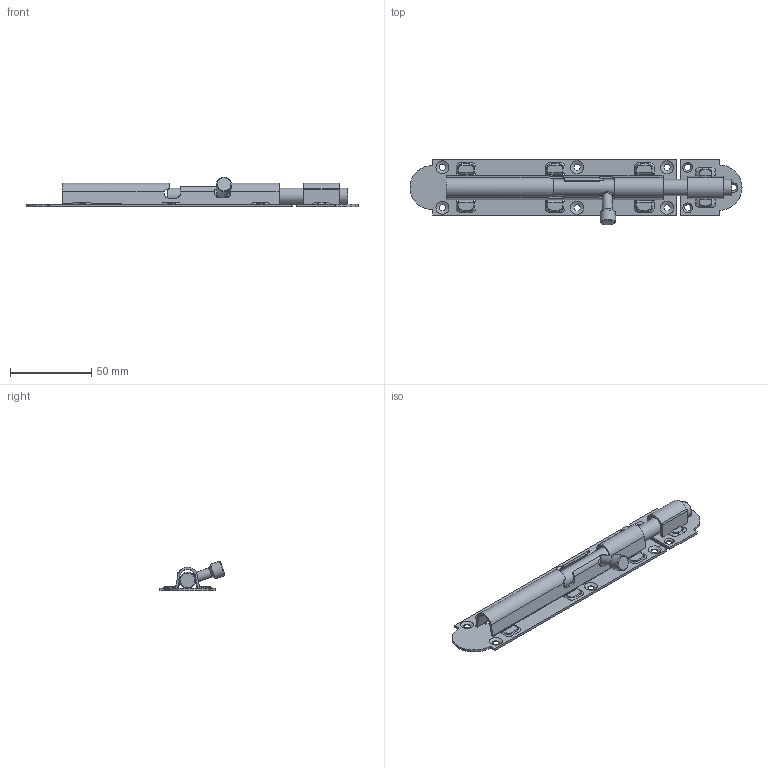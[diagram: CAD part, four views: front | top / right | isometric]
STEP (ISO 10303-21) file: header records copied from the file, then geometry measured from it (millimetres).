
FILE_DESCRIPTION(/* description */ (''),/* implementation_level */ '2;1');
FILE_NAME(/* name */ '\\NAS\db20\ODS3-8\DR_ODS3-8.stp',/* time_stamp */ '2017-09-04T09:16:55+09:00',/* author */ ('user'),/* organization */ (''),/* preprocessor_version */ 'ST-DEVELOPER v15.6',/* originating_system */ 'Autodesk Inventor 2015',/* authorisation */ '');
FILE_SCHEMA (('AUTOMOTIVE_DESIGN { 1 0 10303 214 3 1 1 }'));
Length unit declared in the file: millimetre
Products named in the file (4): DR_ODS3-8-BR; DR_ODS3-8-C; DR_ODS3-8-P; DR_ODS3-8
Bounding box: 204.7 x 40.46 x 18.32 mm (x, y, z)
Volume: 24444.6 mm3; surface area: 28159.9 mm2
Topology: 5 solids, 5 shells, 424 faces, 1075 edges, 660 vertices
Faces by surface type: plane 227, cylinder 139, bspline 33, cone 13, sphere 12
Full cylindrical faces by diameter (mm): 4 x9, 6 x1, 9.5 x1, 10 x1
Entity records: 13619 total; most frequent: CARTESIAN_POINT 3445, ORIENTED_EDGE 2074, DIRECTION 2073, EDGE_CURVE 1037, LINE 699, VECTOR 699, AXIS2_PLACEMENT_3D 687, VERTEX_POINT 648
